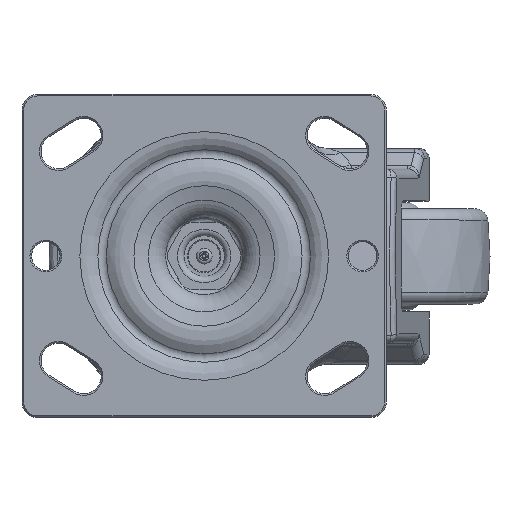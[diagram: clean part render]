
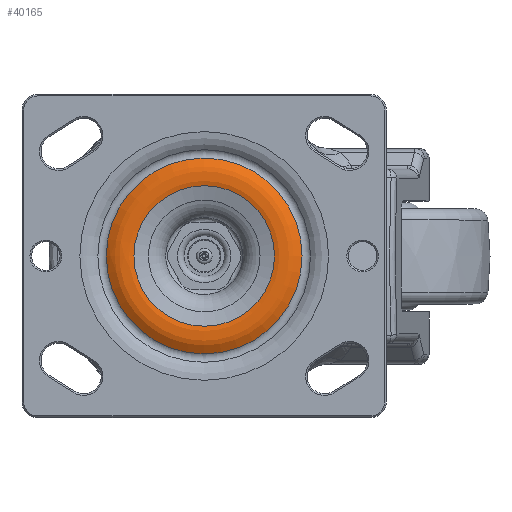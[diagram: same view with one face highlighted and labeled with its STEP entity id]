
A CAD part, top view. The second image highlights one B-rep face of the part: STEP entity #40165.
In plain terms, the highlighted toroidal (fillet/blend) face has major radius 25 mm and minor radius 9.57 mm.
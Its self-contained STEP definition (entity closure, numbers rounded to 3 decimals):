
#8068=FACE_BOUND('',#12852,.T.);
#10131=FACE_OUTER_BOUND('',#12851,.T.);
#12851=EDGE_LOOP('',(#34722));
#12852=EDGE_LOOP('',(#34723));
#15622=CIRCLE('',#44435,22.175);
#15623=CIRCLE('',#44437,30.895);
#18676=VERTEX_POINT('',#109000);
#18677=VERTEX_POINT('',#109003);
#24195=EDGE_CURVE('',#18676,#18676,#15622,.T.);
#24196=EDGE_CURVE('',#18677,#18677,#15623,.T.);
#34722=ORIENTED_EDGE('',*,*,#24196,.T.);
#34723=ORIENTED_EDGE('',*,*,#24195,.F.);
#38179=TOROIDAL_SURFACE('',#44436,25.,9.57);
#40165=ADVANCED_FACE('',(#10131,#8068),#38179,.T.);
#44435=AXIS2_PLACEMENT_3D('',#109001,#53793,#53794);
#44436=AXIS2_PLACEMENT_3D('',#109002,#53795,#53796);
#44437=AXIS2_PLACEMENT_3D('',#109004,#53797,#53798);
#53793=DIRECTION('center_axis',(0.,0.,1.));
#53794=DIRECTION('ref_axis',(-1.,0.,0.));
#53795=DIRECTION('center_axis',(0.,0.,
1.));
#53796=DIRECTION('ref_axis',(0.,-1.,0.));
#53797=DIRECTION('center_axis',(0.,0.,1.));
#53798=DIRECTION('ref_axis',(-1.,0.,0.));
#109000=CARTESIAN_POINT('',(0.,22.176,13.586));
#109001=CARTESIAN_POINT('Origin',(0.,0.001,
13.586));
#109002=CARTESIAN_POINT('Origin',(0.,0.001,
4.443));
#109003=CARTESIAN_POINT('',(-30.896,0.001,11.981));
#109004=CARTESIAN_POINT('Origin',(0.,0.001,
11.981));
